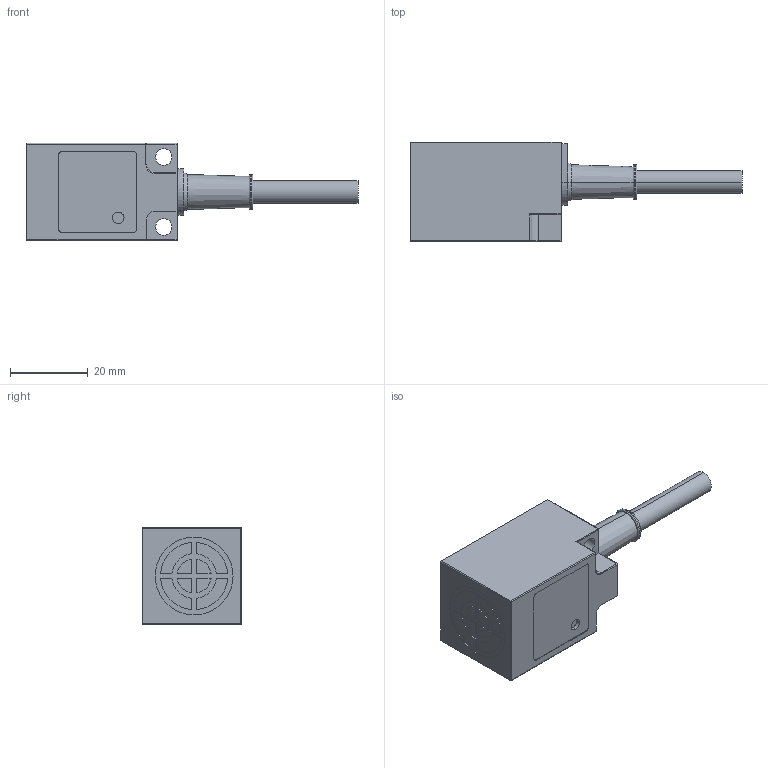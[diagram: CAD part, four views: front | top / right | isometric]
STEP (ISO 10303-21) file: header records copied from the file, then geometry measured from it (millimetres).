
FILE_DESCRIPTION (( 'STEP AP214' ), '1' );
FILE_NAME ('SS25-D.STEP', '2025-09-02T08:00:00', ( 'Windows User' ), ( 'P R C' ), 'SwSTEP 2.0', 'SolidWorks 2023', '' );
FILE_SCHEMA (( 'AUTOMOTIVE_DESIGN' ));
Length unit declared in the file: millimetre
Products named in the file (5): SS25-D; PVC______2016-3-3_1; 5.8导线; SS25-2016-3-1_1; SS25-D(2)
Assembly tree (4 placements, depth 3):
  SS25-D
    SS25-D(2)
      SS25-2016-3-1_1
      PVC______2016-3-3_1
    5.8导线
Bounding box: 85.3 x 25.5 x 25 mm (x, y, z)
Volume: 24996.2 mm3; surface area: 9761.2 mm2
Topology: 3 solids, 3 shells, 143 faces, 337 edges, 210 vertices
Faces by surface type: plane 75, cylinder 53, sphere 6, torus 5, cone 4
Entity records: 4197 total; most frequent: DIRECTION 736, CARTESIAN_POINT 710, ORIENTED_EDGE 662, EDGE_CURVE 331, AXIS2_PLACEMENT_3D 260, VECTOR 216, LINE 216, VERTEX_POINT 210
